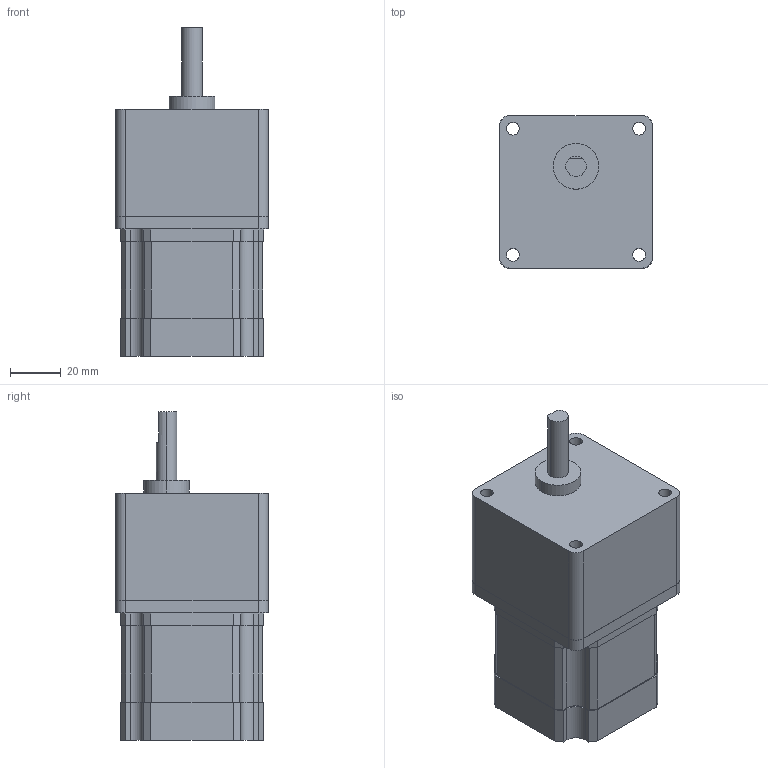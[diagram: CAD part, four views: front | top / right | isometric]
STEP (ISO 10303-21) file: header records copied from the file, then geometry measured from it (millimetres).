
FILE_DESCRIPTION (( 'STEP AP214' ), '1' );
FILE_NAME ('EXMK266-02GA-20K.STEP', '2016-09-09T03:54:34', ( 'hoho' ), ( '' ), 'SwSTEP 2.0', 'SolidWorks 2013', '' );
FILE_SCHEMA (( 'AUTOMOTIVE_DESIGN' ));
Length unit declared in the file: millimetre
Products named in the file (1): EXMK266-02GA-20K
Bounding box: 60 x 60 x 129 mm (x, y, z)
Volume: 306102.6 mm3; surface area: 32237.9 mm2
Topology: 1 solids, 1 shells, 110 faces, 306 edges, 204 vertices
Faces by surface type: plane 78, cylinder 32
Entity records: 3929 total; most frequent: CARTESIAN_POINT 621, ORIENTED_EDGE 612, DIRECTION 594, EDGE_CURVE 306, VECTOR 240, LINE 240, VERTEX_POINT 204, AXIS2_PLACEMENT_3D 177
